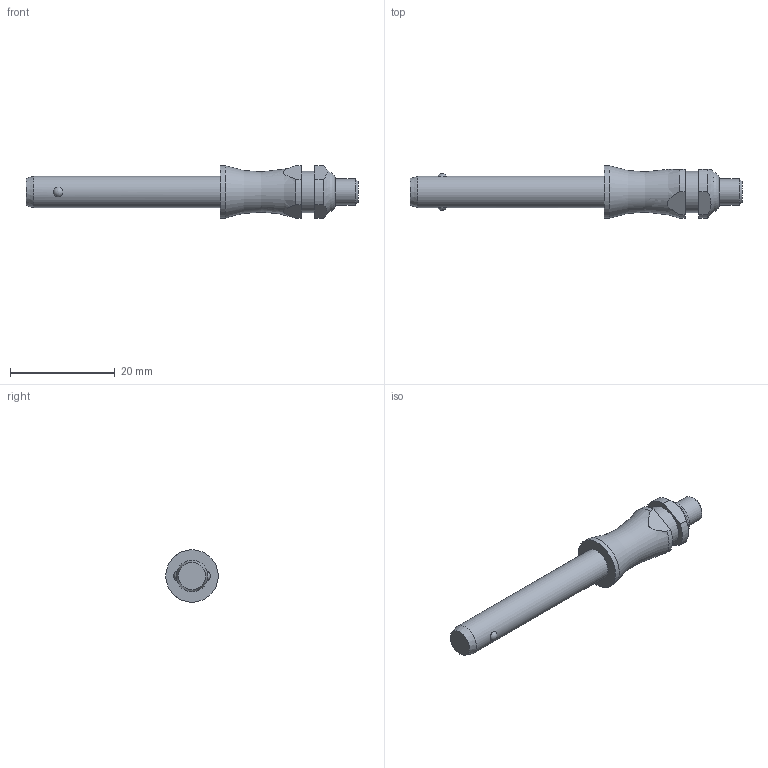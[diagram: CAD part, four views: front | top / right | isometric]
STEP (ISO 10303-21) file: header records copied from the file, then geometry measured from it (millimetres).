
FILE_DESCRIPTION( ( 'STEP AP203' ), '1' );
FILE_NAME( 'C:/Temp/Ganter_Step_05_03_2020/data/3_1/gn113_3/Stainless Steel-Ball lock pin GN 113.3-6-30 (deactivated).stp', '2020-03-12T08:18:17', ( 'License CC BY-ND 4.0' ), ( 'CADENAS' ), ' ', 'PARTsolutions', ' ' );
FILE_SCHEMA( ( 'CONFIG_CONTROL_DESIGN' ) );
Length unit declared in the file: millimetre
Products named in the file (1): _Stainless Steel-Ball lock pin GN 113.3-6-30 (deactivated)
Bounding box: 63.3 x 10 x 10 mm (x, y, z)
Volume: 2382.9 mm3; surface area: 1517.4 mm2
Topology: 1 solids, 1 shells, 29 faces, 61 edges, 40 vertices
Faces by surface type: plane 12, cylinder 10, cone 3, torus 2, sphere 2
Full cylindrical faces by diameter (mm): 5 x1, 6 x1, 7.9 x1, 10 x1
Entity records: 918 total; most frequent: CARTESIAN_POINT 288, DIRECTION 126, ORIENTED_EDGE 100, AXIS2_PLACEMENT_3D 54, EDGE_CURVE 50, EDGE_LOOP 44, VERTEX_POINT 38, FACE_OUTER_BOUND 35
